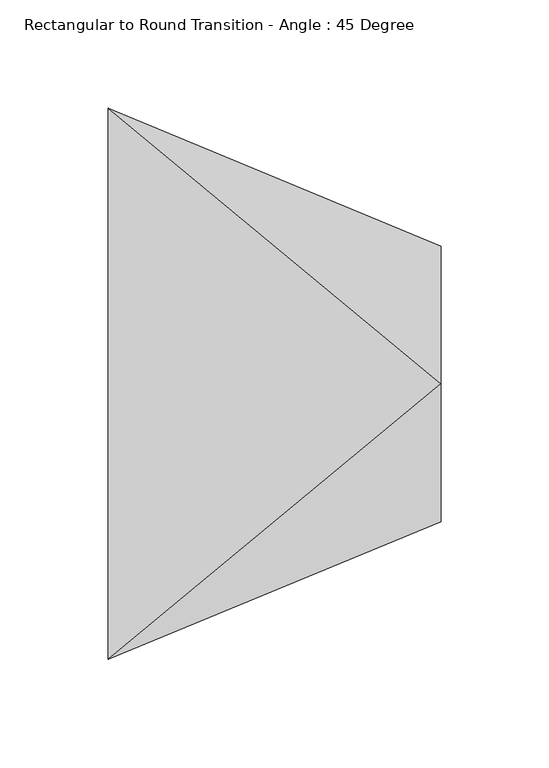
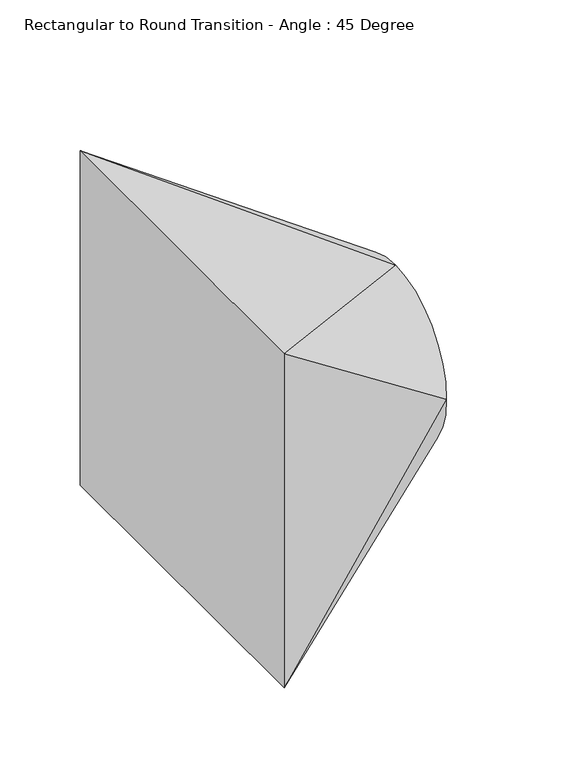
"""IFC4 building model written with IfcOpenShell, lengths in millimetres: duct fitting geometry, Rectangular to Round Transition - Angle : 45 Degree."""

from ifc_helpers import new_model, si_unit, frame, origin, place, context, project, spatial, circle_curve, source, transform, mapped, element, save
from ifc_brep_helpers import plane_surface, spline_surface, advanced_brep


def rectangular_to_round_transition_angle_45_degree_43dd9c00(model_context):
    return source(origin(), model_context, "Body", "AdvancedBrep", [
        advanced_brep(
        [(153.3025612, 0.0, 63.5), (153.3025612, -63.5, 0.0), (153.3025612, 0.0, -63.5), (153.3025612, 63.5, 0.0), (0.0, -127.0, 127.0), (0.0, 127.0, 127.0), (0.0, 127.0, -127.0), (0.0, -127.0, -127.0)],
        [
            (0, 1, circle_curve(frame((153.3025612, 0.0, 0.0), z_axis=(1.0, 0.0, 0.0), x_axis=(0.0, 1.0, 0.0)), 63.5)),
            (1, 2, circle_curve(frame((153.3025612, 0.0, 0.0), z_axis=(1.0, 0.0, 0.0), x_axis=(0.0, 1.0, 0.0)), 63.5)),
            (2, 3, circle_curve(frame((153.3025612, 0.0, 0.0), z_axis=(1.0, 0.0, 0.0), x_axis=(0.0, 1.0, 0.0)), 63.5)),
            (3, 0, circle_curve(frame((153.3025612, 0.0, 0.0), z_axis=(1.0, 0.0, 0.0), x_axis=(0.0, 1.0, 0.0)), 63.5)),
            (4, 5),
            (5, 6),
            (6, 7),
            (7, 4),
            (0, 4),
            (4, 1),
            (7, 1),
            (7, 2),
            (6, 2),
            (6, 3),
            (5, 3),
            (5, 0),
        ],
        [
            plane_surface(frame((153.3025612, 0.0, 0.0), z_axis=(1.0, 0.0, 0.0), x_axis=(0.0, 0.0, -1.0))),
            plane_surface(frame((0.0, 0.0, 0.0), z_axis=(-1.0, 0.0, 0.0), x_axis=(0.0, 0.0, -1.0))),
            spline_surface(2, 1, [[(0.0, -127.0, 127.0), (153.3025612, 0.0, 63.5)], [(0.0, -127.0, 127.0), (153.3025612, -63.5, 63.5)], [(0.0, -127.0, 127.0), (153.3025612, -63.5, 0.0)]], [3, 3], [2, 2], [0.0, 1.0], [0.0, 1.0], weights=[[1.0, 1.0], [0.7071067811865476, 0.7071067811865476], [1.0, 1.0]]),
            plane_surface(frame((0.0, -127.0, 0.0), z_axis=(0.38268343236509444, -0.9238795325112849, 0.0), x_axis=(0.0, 0.0, -1.0))),
            spline_surface(2, 1, [[(0.0, -127.0, -127.0), (153.3025612, -63.5, 0.0)], [(0.0, -127.0, -127.0), (153.3025612, -63.5, -63.5)], [(0.0, -127.0, -127.0), (153.3025612, 0.0, -63.5)]], [3, 3], [2, 2], [0.0, 1.0], [0.0, 1.0], weights=[[1.0, 1.0], [0.7071067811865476, 0.7071067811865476], [1.0, 1.0]]),
            plane_surface(frame((0.0, 0.0, -127.0), z_axis=(0.38268343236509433, 0.0, -0.923879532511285), x_axis=(0.0, 1.0, 0.0))),
            spline_surface(2, 1, [[(0.0, 127.0, -127.0), (153.3025612, 0.0, -63.5)], [(0.0, 127.0, -127.0), (153.3025612, 63.5, -63.5)], [(0.0, 127.0, -127.0), (153.3025612, 63.5, 0.0)]], [3, 3], [2, 2], [0.0, 1.0], [0.0, 1.0], weights=[[1.0, 1.0], [0.7071067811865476, 0.7071067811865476], [1.0, 1.0]]),
            plane_surface(frame((0.0, 127.0, 0.0), z_axis=(0.3826834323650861, 0.9238795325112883, 0.0), x_axis=(0.0, 0.0, 1.0))),
            spline_surface(2, 1, [[(0.0, 127.0, 127.0), (153.3025612, 63.5, 0.0)], [(0.0, 127.0, 127.0), (153.3025612, 63.5, 63.5)], [(0.0, 127.0, 127.0), (153.3025612, 0.0, 63.5)]], [3, 3], [2, 2], [0.0, 1.0], [0.0, 1.0], weights=[[1.0, 1.0], [0.7071067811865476, 0.7071067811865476], [1.0, 1.0]]),
            plane_surface(frame((0.0, 0.0, 127.0), z_axis=(0.38268343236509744, 0.0, 0.9238795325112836), x_axis=(0.0, -1.0, 0.0))),
        ],
        [
            (0, [[1, 2, 3, 4]]),
            (1, [[5, 6, 7, 8]]),
            (2, [[-1, 9, 10]]),
            (3, [[-8, 11, -10]]),
            (4, [[-2, -11, 12]]),
            (5, [[-7, 13, -12]]),
            (6, [[-3, -13, 14]]),
            (7, [[-6, 15, -14]]),
            (8, [[-4, -15, 16]]),
            (9, [[-5, -9, -16]]),
        ],
    ),
    ])


if __name__ == "__main__":
    model = new_model("IFC4")
    model_context = context("Model", 3, world=origin())
    ifc_project = project(units=[si_unit("LENGTHUNIT", "METRE", prefix="MILLI")], contexts=[model_context])
    site = spatial("IfcSite", under=ifc_project)
    building = spatial("IfcBuilding", under=site)
    placement = place(None, origin())
    rectangular_to_round_transition_angle_45_degree_shape = rectangular_to_round_transition_angle_45_degree_43dd9c00(model_context)
    element("IfcDuctFitting", 1, ObjectType="Rectangular to Round Transition - Angle : 45 Degree", at=placement, inside=building, context=model_context, shape_type="MappedRepresentation", body=[
        mapped(rectangular_to_round_transition_angle_45_degree_shape, transform((0.0, 0.0, 0.0), x_axis=(1.0, 0.0, 0.0), y_axis=(0.0, 1.0, 0.0), z_axis=(0.0, 0.0, 1.0))),
    ])
    save(model, "model.ifc")
